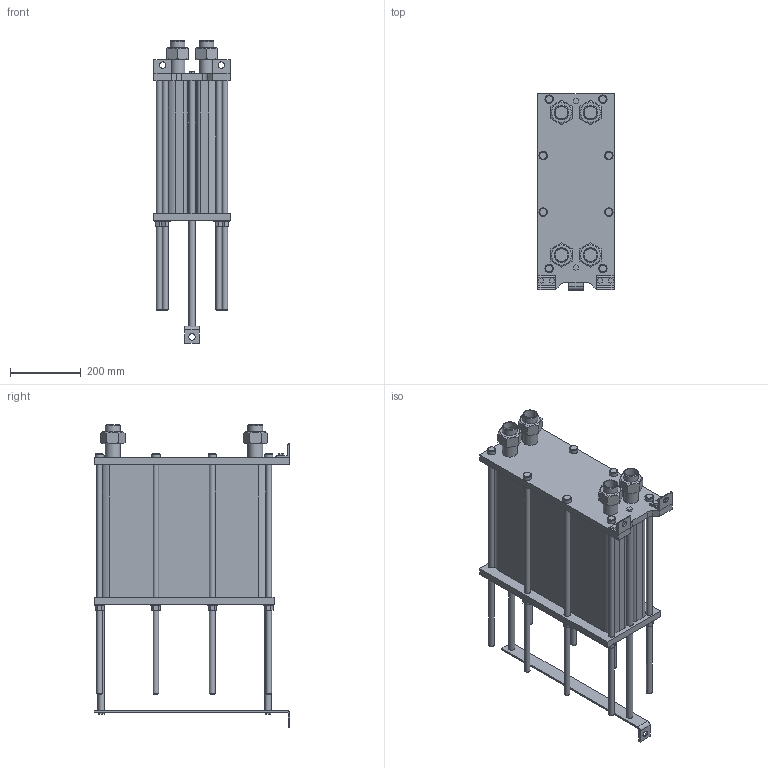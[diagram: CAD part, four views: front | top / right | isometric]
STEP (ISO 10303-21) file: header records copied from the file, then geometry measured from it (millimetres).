
FILE_DESCRIPTION(/* description */ (''),/* implementation_level */ '2;1');
FILE_NAME(/* name */ 'C:\Users\zhuro\Desktop\ENCO\TO\ЭН-004\ЭН-0,5-004-121-1.stp',/* time_stamp */ '2022-06-06T10:54:41+03:00',/* author */ ('zhuro'),/* organization */ (''),/* preprocessor_version */ 'ST-DEVELOPER v18.1',/* originating_system */ 'Autodesk Inventor 2022',/* authorisation */ '');
FILE_SCHEMA (('AUTOMOTIVE_DESIGN { 1 0 10303 214 3 1 1 }'));
Length unit declared in the file: millimetre
Products named in the file (1): ЭН-0,5-004-121-1
Bounding box: 216 x 555 x 857.8 mm (x, y, z)
Volume: 33959322.3 mm3; surface area: 1770745.3 mm2
Topology: 40 solids, 40 shells, 403 faces, 865 edges, 574 vertices
Faces by surface type: plane 272, cylinder 103, cone 28
Full cylindrical faces by diameter (mm): 10 x4, 16 x16, 18 x29, 20 x2, 24 x8, 28 x8, 36.3 x5, 42.3 x9
Entity records: 11137 total; most frequent: CARTESIAN_POINT 1939, DIRECTION 1879, ORIENTED_EDGE 1730, EDGE_CURVE 865, AXIS2_PLACEMENT_3D 658, VERTEX_POINT 574, LINE 563, VECTOR 563
